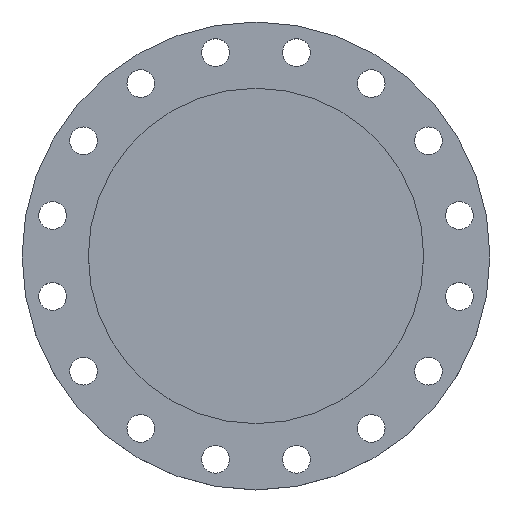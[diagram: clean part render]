
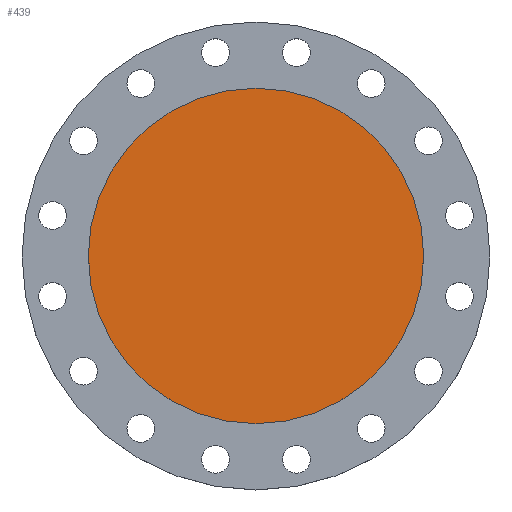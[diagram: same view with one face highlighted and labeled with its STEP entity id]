
A CAD part, top view. The second image highlights one B-rep face of the part: STEP entity #439.
In plain terms, the highlighted planar face has unit normal (0, 0, 1).
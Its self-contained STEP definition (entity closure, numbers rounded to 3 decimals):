
#91 = VERTEX_POINT ( 'NONE', #906 ) ;
#368 = EDGE_CURVE ( 'NONE', #91, #607, #460, .T. ) ;
#375 = ORIENTED_EDGE ( 'NONE', *, *, #833, .F. ) ;
#436 = EDGE_LOOP ( 'NONE', ( #375, #1485 ) ) ;
#439 = ADVANCED_FACE ( 'NONE', ( #1468 ), #1464, .T. ) ;
#457 = AXIS2_PLACEMENT_3D ( 'NONE', #740, #738, #737 ) ;
#460 = CIRCLE ( 'NONE', #457, 236.5 ) ;
#536 = CIRCLE ( 'NONE', #538, 236.5 ) ;
#538 = AXIS2_PLACEMENT_3D ( 'NONE', #1236, #1235, #1233 ) ;
#607 = VERTEX_POINT ( 'NONE', #1311 ) ;
#737 = DIRECTION ( 'NONE',  ( -1., 0., 0. ) ) ;
#738 = DIRECTION ( 'NONE',  ( 0., 0., -1. ) ) ;
#740 = CARTESIAN_POINT ( 'NONE',  ( 0., 0., 0. ) ) ;
#833 = EDGE_CURVE ( 'NONE', #607, #91, #536, .T. ) ;
#906 = CARTESIAN_POINT ( 'NONE',  ( 236.5, 0., 0. ) ) ;
#1082 = AXIS2_PLACEMENT_3D ( 'NONE', #1462, #1460, #1459 ) ;
#1233 = DIRECTION ( 'NONE',  ( -1., 0., 0. ) ) ;
#1235 = DIRECTION ( 'NONE',  ( 0., 0., -1. ) ) ;
#1236 = CARTESIAN_POINT ( 'NONE',  ( 0., 0., 0. ) ) ;
#1311 = CARTESIAN_POINT ( 'NONE',  ( -236.5, 0., 0. ) ) ;
#1459 = DIRECTION ( 'NONE',  ( 1., 0., 0. ) ) ;
#1460 = DIRECTION ( 'NONE',  ( 0., 0., 1. ) ) ;
#1462 = CARTESIAN_POINT ( 'NONE',  ( 0., 0., 0. ) ) ;
#1464 = PLANE ( 'NONE',  #1082 ) ;
#1468 = FACE_OUTER_BOUND ( 'NONE', #436, .T. ) ;
#1485 = ORIENTED_EDGE ( 'NONE', *, *, #368, .F. ) ;
